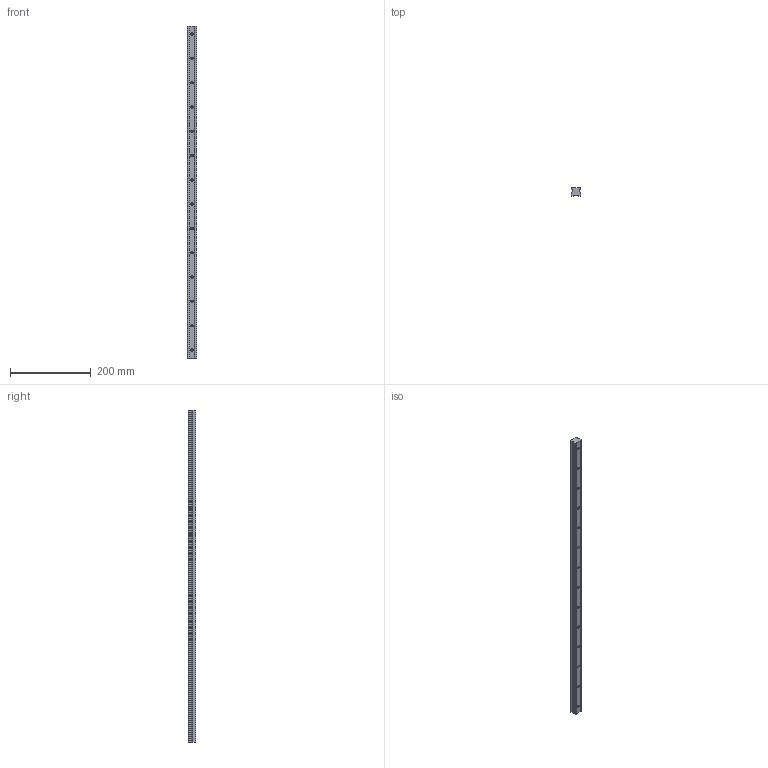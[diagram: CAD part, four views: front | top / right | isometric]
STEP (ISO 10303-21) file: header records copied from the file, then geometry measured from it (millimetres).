
FILE_DESCRIPTION (( 'STEP AP203' ), '1' );
FILE_NAME ('L1016.BRF25-0820.step', '2019-06-13T08:36:03', ( '' ), ( '' ), 'SwSTEP 2.0', 'SolidWorks 2017', '' );
FILE_SCHEMA (( 'CONFIG_CONTROL_DESIGN' ));
Length unit declared in the file: millimetre
Products named in the file (1): L1016.BRF25-0820
Bounding box: 23 x 19.2 x 820 mm (x, y, z)
Volume: 312981.2 mm3; surface area: 76087.9 mm2
Topology: 1 solids, 1 shells, 124 faces, 296 edges, 174 vertices
Faces by surface type: cylinder 60, plane 36, cone 28
Entity records: 3477 total; most frequent: DIRECTION 638, CARTESIAN_POINT 567, ORIENTED_EDGE 536, EDGE_CURVE 268, AXIS2_PLACEMENT_3D 245, VERTEX_POINT 174, EDGE_LOOP 152, VECTOR 148
